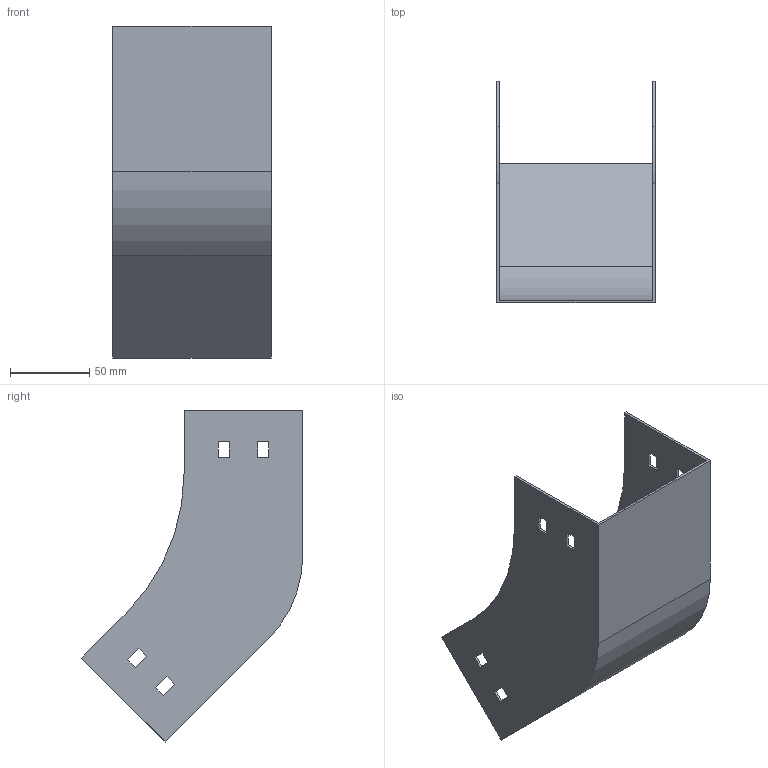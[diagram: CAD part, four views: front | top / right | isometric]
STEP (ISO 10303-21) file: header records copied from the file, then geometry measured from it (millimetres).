
FILE_DESCRIPTION (( 'STEP AP214' ), '1' );
FILE_NAME ('S4_107.step', '2025-07-16T09:26:15', ( '' ), ( '' ), 'SwSTEP 2.0', 'SolidWorks 2023', '' );
FILE_SCHEMA (( 'AUTOMOTIVE_DESIGN' ));
Length unit declared in the file: millimetre
Products named in the file (1): S4_107
Bounding box: 100 x 139.9 x 209.71 mm (x, y, z)
Volume: 83286.8 mm3; surface area: 112734.3 mm2
Topology: 1 solids, 1 shells, 50 faces, 144 edges, 96 vertices
Faces by surface type: plane 46, cylinder 4
Entity records: 1671 total; most frequent: CARTESIAN_POINT 291, ORIENTED_EDGE 288, DIRECTION 254, EDGE_CURVE 144, LINE 136, VECTOR 136, VERTEX_POINT 96, EDGE_LOOP 66
